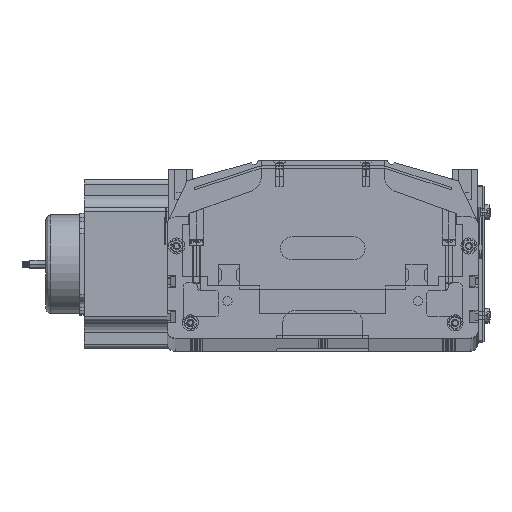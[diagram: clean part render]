
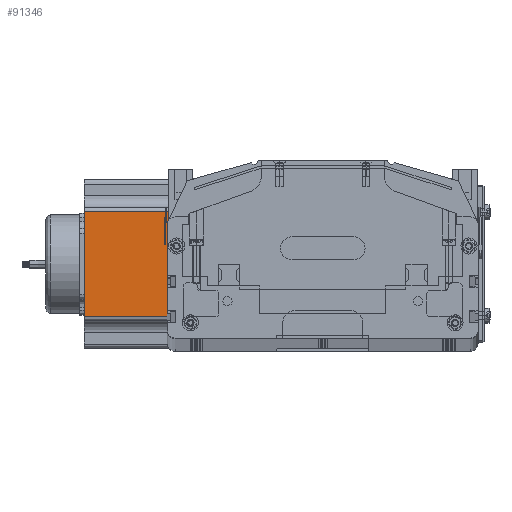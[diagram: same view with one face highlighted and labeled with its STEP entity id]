
A CAD part, top view. The second image highlights one B-rep face of the part: STEP entity #91346.
In plain terms, the highlighted planar face has unit normal (0, 0, 1) as drawn and (0, -1, 0) by its records, which use the part's own axes.
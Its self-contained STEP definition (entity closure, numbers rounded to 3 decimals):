
#66696 = DIRECTION ( 'NONE',  ( 1., 0., 0. ) ) ;
#66698 = VECTOR ( 'NONE', #66696, 1000. ) ;
#66700 = CARTESIAN_POINT ( 'NONE',  ( 0., 0., 160.5 ) ) ;
#66794 = CARTESIAN_POINT ( 'NONE',  ( 88.952, 0., 160.5 ) ) ;
#66803 = CARTESIAN_POINT ( 'NONE',  ( 21.048, 0., 160.5 ) ) ;
#66823 = LINE ( 'NONE', #66700, #66698 ) ;
#66885 = CARTESIAN_POINT ( 'NONE',  ( 21.048, 0., 0. ) ) ;
#67301 = CARTESIAN_POINT ( 'NONE',  ( 88.952, 0., 0. ) ) ;
#69244 = DIRECTION ( 'NONE',  ( 0., 1., 0. ) ) ;
#69245 = CARTESIAN_POINT ( 'NONE',  ( 0., 0., 160.5 ) ) ;
#69289 = LINE ( 'NONE', #69340, #69339 ) ;
#69324 = DIRECTION ( 'NONE',  ( 1., 0., 0. ) ) ;
#69325 = VECTOR ( 'NONE', #69324, 1000. ) ;
#69327 = CARTESIAN_POINT ( 'NONE',  ( 0., 0., 0. ) ) ;
#69338 = DIRECTION ( 'NONE',  ( 0., 0., 1. ) ) ;
#69339 = VECTOR ( 'NONE', #69338, 1000. ) ;
#69340 = CARTESIAN_POINT ( 'NONE',  ( 88.952, 0., 160.5 ) ) ;
#69361 = DIRECTION ( 'NONE',  ( 0., 0., 1. ) ) ;
#69416 = FACE_OUTER_BOUND ( 'NONE', #91348, .T. ) ;
#69417 = LINE ( 'NONE', #69327, #69325 ) ;
#69418 = AXIS2_PLACEMENT_3D ( 'NONE', #69245, #69244, #69361 ) ;
#69450 = PLANE ( 'NONE',  #69418 ) ;
#73918 = DIRECTION ( 'NONE',  ( 0., 0., -1. ) ) ;
#73920 = VECTOR ( 'NONE', #73918, 1000. ) ;
#74026 = CARTESIAN_POINT ( 'NONE',  ( 21.048, 0., 160.5 ) ) ;
#74028 = LINE ( 'NONE', #74026, #73920 ) ;
#91128 = VERTEX_POINT ( 'NONE', #66885 ) ;
#91134 = ORIENTED_EDGE ( 'NONE', *, *, #91698, .T. ) ;
#91142 = VERTEX_POINT ( 'NONE', #66803 ) ;
#91143 = VERTEX_POINT ( 'NONE', #66794 ) ;
#91146 = EDGE_CURVE ( 'NONE', #91142, #91143, #66823, .T. ) ;
#91264 = VERTEX_POINT ( 'NONE', #67301 ) ;
#91346 = ADVANCED_FACE ( 'NONE', ( #69416 ), #69450, .F. ) ;
#91348 = EDGE_LOOP ( 'NONE', ( #91368, #91349, #91357, #91134 ) ) ;
#91349 = ORIENTED_EDGE ( 'NONE', *, *, #91351, .T. ) ;
#91351 = EDGE_CURVE ( 'NONE', #91264, #91143, #69289, .T. ) ;
#91354 = EDGE_CURVE ( 'NONE', #91128, #91264, #69417, .T. ) ;
#91357 = ORIENTED_EDGE ( 'NONE', *, *, #91146, .F. ) ;
#91368 = ORIENTED_EDGE ( 'NONE', *, *, #91354, .T. ) ;
#91698 = EDGE_CURVE ( 'NONE', #91142, #91128, #74028, .T. ) ;
